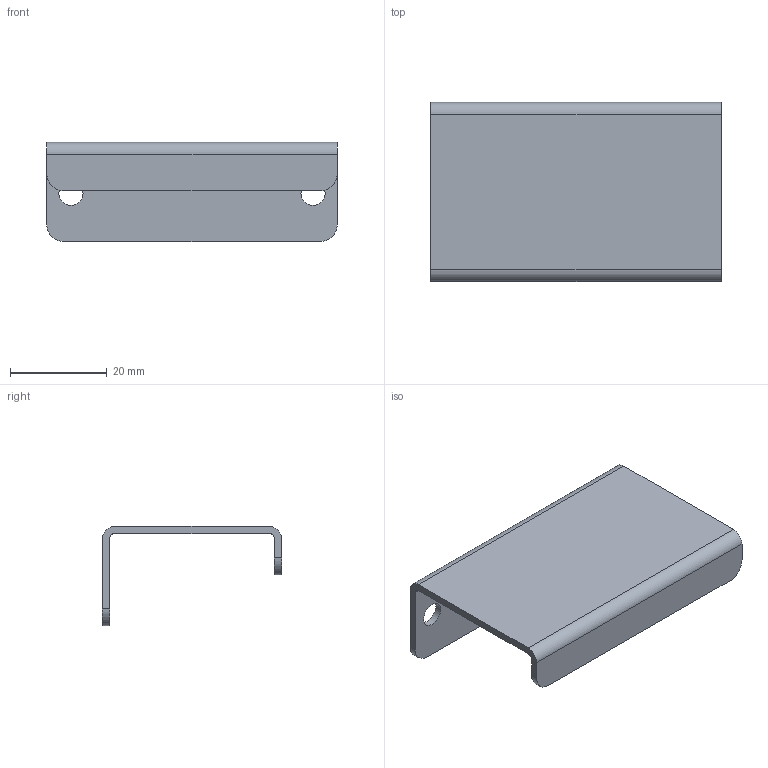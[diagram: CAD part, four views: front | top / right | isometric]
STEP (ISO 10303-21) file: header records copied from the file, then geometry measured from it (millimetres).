
FILE_DESCRIPTION( ( 'STEP AP214' ), '1' );
FILE_NAME( 'C:/Users/kulkarni/Desktop/Apurva/2015/Prodecor_2016/Cadfiles/same as files/Narni/9158400.stp', ' ', ( ' ' ), ( ' ' ), 'PSStep 15.0.47', 'PARTsolutions', ' ' );
FILE_SCHEMA( ( 'AUTOMOTIVE_DESIGN { 1 0 10303 214 1 1 1 1 }' ) );
Length unit declared in the file: millimetre
Products named in the file (1): _9158400
Bounding box: 60 x 37 x 20.5 mm (x, y, z)
Volume: 5595.1 mm3; surface area: 7867.3 mm2
Topology: 1 solids, 1 shells, 20 faces, 56 edges, 38 vertices
Faces by surface type: plane 10, cylinder 10
Full cylindrical faces by diameter (mm): 5 x2
Entity records: 812 total; most frequent: DIRECTION 114, CARTESIAN_POINT 109, ORIENTED_EDGE 104, EDGE_CURVE 52, AXIS2_PLACEMENT_3D 41, VERTEX_POINT 36, LINE 32, VECTOR 32
